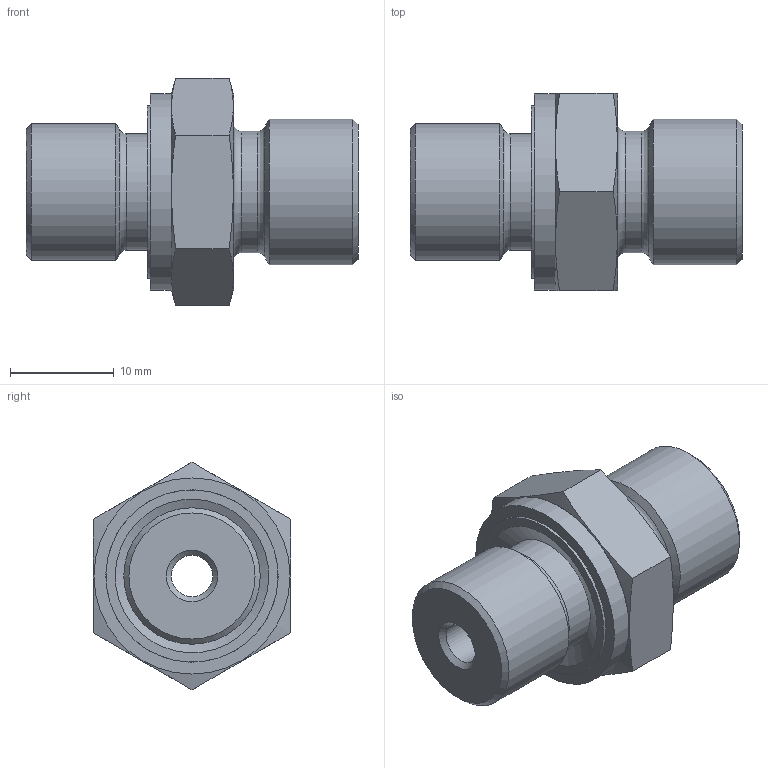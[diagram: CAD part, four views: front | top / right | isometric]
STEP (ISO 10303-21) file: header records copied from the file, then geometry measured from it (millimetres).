
FILE_DESCRIPTION( ( 'Unknown' ), '1' );
FILE_NAME( 'C:/Users/p.nanko/Desktop/3D SR/XGE06SED02.stp', 'Unknown', ( 'Peter Nanko' ), ( 'Armaturen Arndt' ), 'PSStep 14.0', 'Solid Edge ST4', ' ' );
FILE_SCHEMA( ( 'AUTOMOTIVE_DESIGN { 1 0 10303 214 1 1 1 1 }' ) );
Length unit declared in the file: millimetre
Products named in the file (3): Assem1; EDRING02; XGE06SED023
Assembly tree (2 placements, depth 2):
  Assem1
    EDRING02
    XGE06SED023
Bounding box: 32 x 19 x 21.94 mm (x, y, z)
Volume: 5082.4 mm3; surface area: 3052.4 mm2
Topology: 2 solids, 2 shells, 38 faces, 75 edges, 46 vertices
Faces by surface type: plane 15, cylinder 10, cone 9, torus 4
Full cylindrical faces by diameter (mm): 4 x1, 6 x1, 11.2 x1, 11.3 x1, 11.7 x1, 13.157 x1, 14 x1, 16.6 x2, 18.9 x1
Entity records: 1274 total; most frequent: CARTESIAN_POINT 233, DIRECTION 150, ORIENTED_EDGE 98, AXIS2_PLACEMENT_3D 72, EDGE_LOOP 70, FACE_OUTER_BOUND 52, EDGE_CURVE 49, VERTEX_POINT 43
